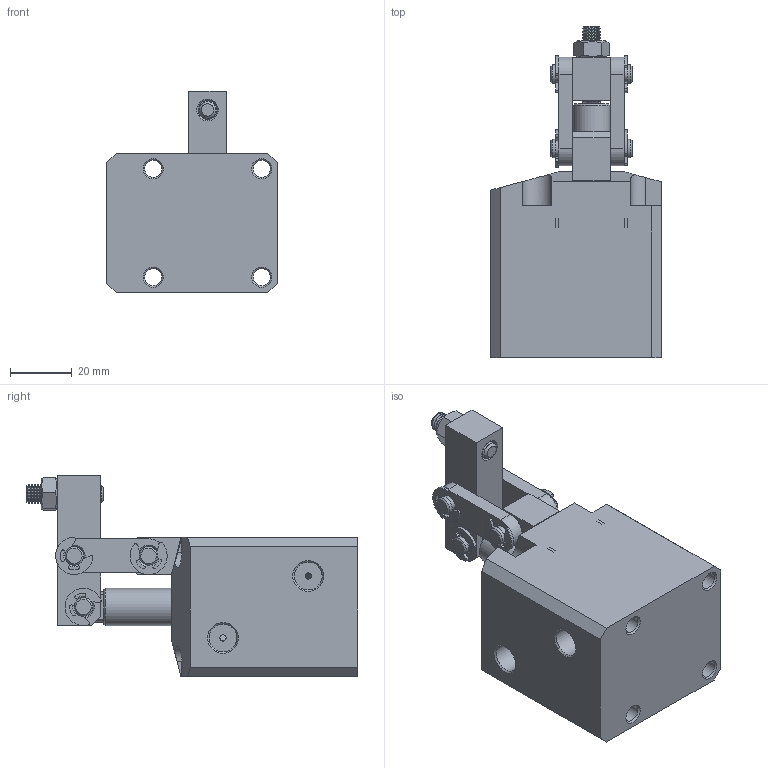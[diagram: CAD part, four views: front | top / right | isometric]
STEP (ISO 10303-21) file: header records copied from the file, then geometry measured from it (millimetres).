
FILE_DESCRIPTION(/* description */ ('STEP AP203'),/* implementation_level */ '2;1');
FILE_NAME(/* name */ 'D:\Vault_2016\Projekty\Clamptek\Hydraulic\CBLU\CBLU-25\STEP\CBLU-25R.stp',/* time_stamp */ '2021-05-06T11:59:52+02:00',/* author */ ('user'),/* organization */ (''),/* preprocessor_version */ 'ST-DEVELOPER v18.1',/* originating_system */ 'Autodesk Inventor 2021',/* authorisation */ '');
FILE_SCHEMA (('AUTOMOTIVE_DESIGN { 1 0 10303 214 3 1 1 }'));
Length unit declared in the file: millimetre
Products named in the file (10): CBLU-25R; CR±¾Ìå_1_1; »îÈû¸Ë_4_1; Ñ¹±Û; Á¬¸Ë; hex nuts, style 1-grades ab gb_GB_FASTENER_NUT_SNAB1 M6-N; ¶ÌÏúÖá; socket set screw flat point_iso2_ISO 4026 - M6 x 4-S; ³¤ÏúÖá; e rings gb_GB_CONNECTING_PIECE_RINGS_HR 6
Assembly tree (19 placements, depth 2):
  CBLU-25R
    CR±¾Ìå_1_1
    »îÈû¸Ë_4_1
    Ñ¹±Û
    Á¬¸Ë  x2
    hex nuts, style 1-grades ab gb_GB_FASTENER_NUT_SNAB1 M6-N
    e rings gb_GB_CONNECTING_PIECE_RINGS_HR 6  x9
    ³¤ÏúÖá  x2
    ¶ÌÏúÖá
    socket set screw flat point_iso2_ISO 4026 - M6 x 4-S
Bounding box: 55 x 107 x 65 mm (x, y, z)
Volume: 140380.5 mm3; surface area: 39349.5 mm2
Topology: 21 solids, 21 shells, 479 faces, 1217 edges, 799 vertices
Faces by surface type: cylinder 206, plane 178, cone 90, bspline 5
Full cylindrical faces by diameter (mm): 2 x2, 2.5 x1, 4.917 x1, 5 x6, 5.5 x4, 6 x63, 9 x2, 12 x2, 25 x2, 30 x1, 32 x1
Entity records: 18493 total; most frequent: CARTESIAN_POINT 10853, DIRECTION 1600, ORIENTED_EDGE 1474, EDGE_CURVE 737, AXIS2_PLACEMENT_3D 619, VERTEX_POINT 480, LINE 362, VECTOR 362
